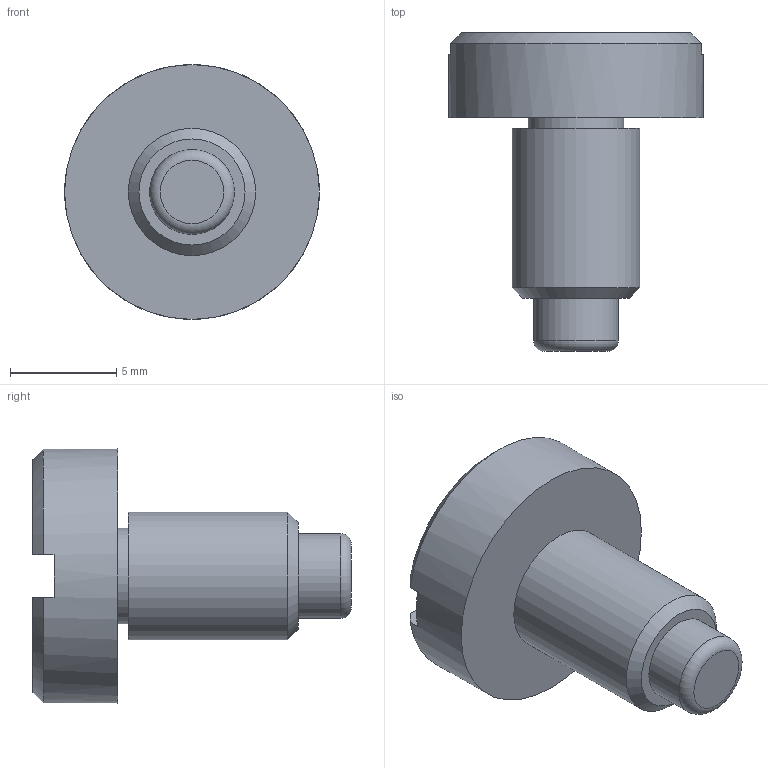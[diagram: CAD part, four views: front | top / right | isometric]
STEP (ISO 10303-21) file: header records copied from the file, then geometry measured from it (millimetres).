
FILE_DESCRIPTION(/* description */ (''),/* implementation_level */ '2;1');
FILE_NAME(/* name */ '',/* time_stamp */ '2026-08-27T17:03:36+09:00',/* author */ ('jhkim'),/* organization */ (''),/* preprocessor_version */ 'ST-DEVELOPER v20.1',/* originating_system */ 'Autodesk Inventor 2027',/* authorisation */ '');
FILE_SCHEMA (('AUTOMOTIVE_DESIGN { 1 0 10303 214 3 1 1 }'));
Length unit declared in the file: millimetre
Products named in the file (1): 스톱퍼
Bounding box: 12 x 15 x 12 mm (x, y, z)
Volume: 687.1 mm3; surface area: 591.3 mm2
Topology: 1 solids, 1 shells, 17 faces, 36 edges, 24 vertices
Faces by surface type: plane 9, cylinder 4, cone 3, torus 1
Full cylindrical faces by diameter (mm): 4 x1, 4.5 x1, 6 x1, 12 x1
Entity records: 508 total; most frequent: DIRECTION 87, CARTESIAN_POINT 86, ORIENTED_EDGE 72, AXIS2_PLACEMENT_3D 37, EDGE_CURVE 36, VERTEX_POINT 24, EDGE_LOOP 20, CIRCLE 19
